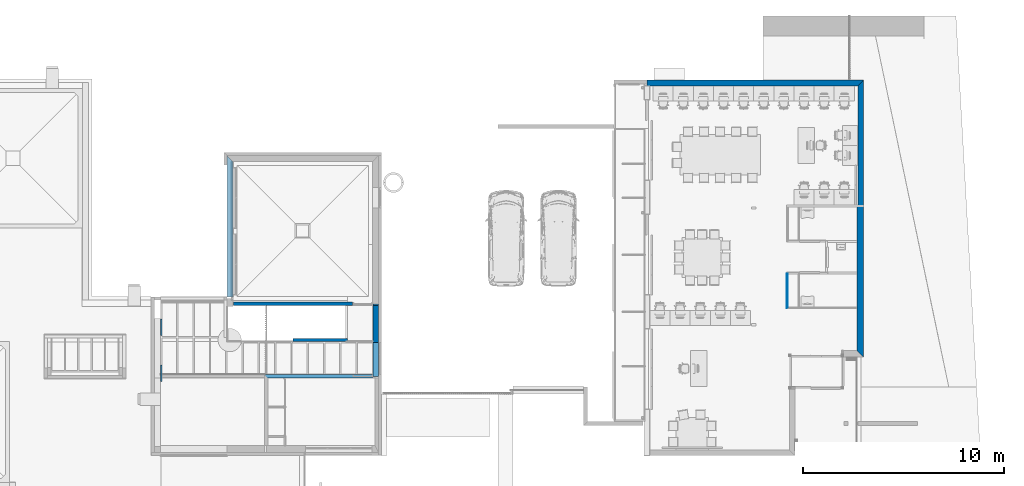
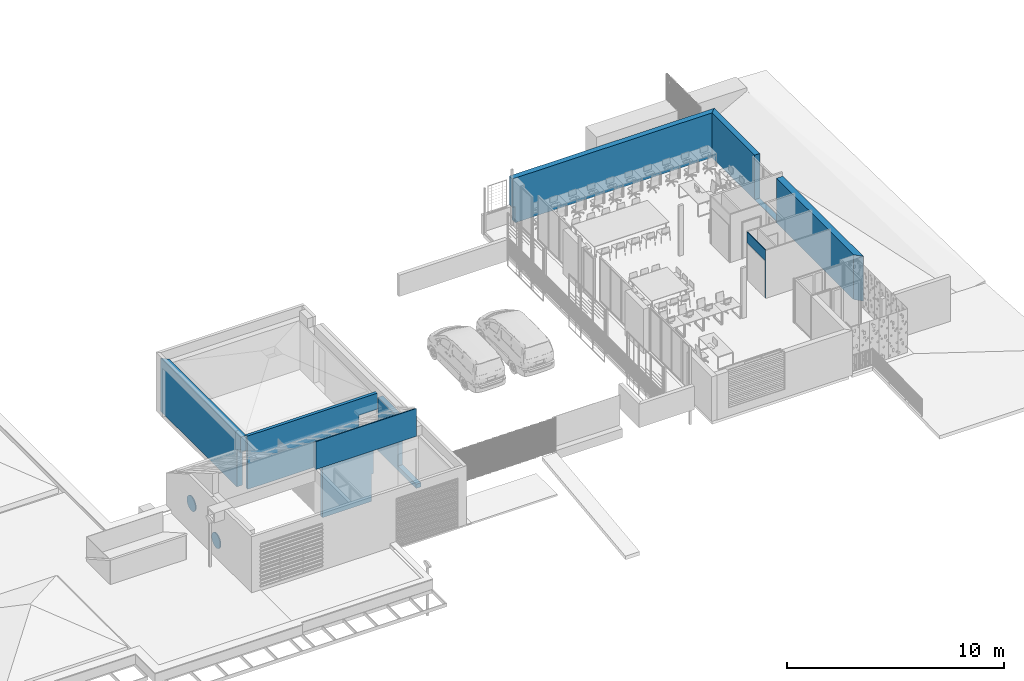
# One storey, part 20 of 51: 9 walls, 2 discrete accessories.
"""IFC2X3 building model written with IfcOpenShell, lengths in metres."""

import ifcopenshell
import ifcopenshell.guid

model = None  # the IFC model being written
_history = None  # IfcOwnerHistory: only IFC2X3 demands one
_inside = {}  # id of a spatial element -> (the spatial element, [elements in it])
_under = {}  # id of a project, library or spatial element -> (it, [spatial elements below it])
_declared = {}  # id of a project -> (the project, [libraries it declares])
_typed = {}  # id of a type object -> (the type object, [elements of that type])
_made_of = {}  # id of a material, layer set ... -> (it, [elements and type objects made of it])


def new_model(schema):
    """Start an empty IFC model of exactly this schema.

    Asked for "IFC4X3", IfcOpenShell would pick the latest addendum, in which some entities
    have other attributes; the version numbers below select the first issue.
    IFC2X3 requires an IfcOwnerHistory on every rooted entity: one is made here for all.
    """
    global model, _history
    if schema == "IFC4X3":
        model = ifcopenshell.file(schema_version=(4, 3, 0, 0))
    else:
        model = ifcopenshell.file(schema=schema)
    _inside.clear()
    _under.clear()
    _declared.clear()
    _typed.clear()
    _made_of.clear()
    _history = None
    if model.schema == "IFC2X3":
        org = make("IfcOrganization", Name="unknown")
        user = make(
            "IfcPersonAndOrganization",
            ThePerson=make("IfcPerson", FamilyName="unknown"),
            TheOrganization=org,
        )
        app = make(
            "IfcApplication",
            ApplicationDeveloper=org,
            Version="unknown",
            ApplicationFullName="unknown",
            ApplicationIdentifier="unknown",
        )
        _history = make(
            "IfcOwnerHistory",
            OwningUser=user,
            OwningApplication=app,
            ChangeAction="ADDED",
            CreationDate=0,
        )
    return model


def make(cls, **values):
    """One entity of the class cls with the attributes given. An attribute that is None is left unset."""
    return model.create_entity(
        cls, **{name: value for name, value in values.items() if value is not None}
    )


def entity(cls, *values):
    """Any entity or typed value of the class cls, its attributes in the order of the schema. None: left unset."""
    e = model.create_entity(cls)
    for i, value in enumerate(values):
        if value is not None:
            e[i] = value
    return e


def rooted(cls, **values):
    """An entity with a GlobalId (a new one), such as an element, a storey or a relation."""
    return make(cls, GlobalId=ifcopenshell.guid.new(), OwnerHistory=_history, **values)


def si_unit(unit_type, name, prefix=None):
    """IfcSIUnit, for example si_unit("LENGTHUNIT", "METRE", prefix="MILLI")."""
    return make("IfcSIUnit", UnitType=unit_type, Prefix=prefix, Name=name)


def converted_unit(unit_type, name, factor, base, dimensions=None, offset=None):
    """IfcConversionBasedUnit, such as the inch: factor (a typed value) times the base unit."""
    return make(
        "IfcConversionBasedUnit"
        if offset is None
        else "IfcConversionBasedUnitWithOffset",
        ConversionOffset=offset,
        Dimensions=None
        if dimensions is None
        else entity("IfcDimensionalExponents", *dimensions),
        UnitType=unit_type,
        Name=name,
        ConversionFactor=make(
            "IfcMeasureWithUnit", ValueComponent=factor, UnitComponent=base
        ),
    )


def derived_unit(unit_type, elements):
    """IfcDerivedUnit: a product of units, each with its exponent."""
    return make(
        "IfcDerivedUnit",
        Elements=[
            make("IfcDerivedUnitElement", Unit=unit, Exponent=power)
            for unit, power in elements
        ],
        UnitType=unit_type,
    )


def assignment(units):
    """IfcUnitAssignment: the units of a project."""
    return None if units is None else make("IfcUnitAssignment", Units=units)


def point(xyz):
    """IfcCartesianPoint."""
    return None if xyz is None else make("IfcCartesianPoint", Coordinates=xyz)


def direction(xyz):
    """IfcDirection."""
    return None if xyz is None else make("IfcDirection", DirectionRatios=xyz)


def frame(location, z_axis=None, x_axis=None):
    """IfcAxis2Placement3D, a coordinate frame: its origin and axes. An axis left out is left unset."""
    return make(
        "IfcAxis2Placement3D",
        Location=point(location),
        Axis=direction(z_axis),
        RefDirection=direction(x_axis),
    )


def origin():
    """The frame at (0, 0, 0) with its axes left unset."""
    return frame((0.0, 0.0, 0.0))


def place(relative_to, where):
    """IfcLocalPlacement: puts the frame where relative to a parent placement (None: the world)."""
    return make(
        "IfcLocalPlacement", PlacementRelTo=relative_to, RelativePlacement=where
    )


def context(
    kind, dimensions, precision=None, world=None, true_north=None, identifier=None
):
    """IfcGeometricRepresentationContext, for example the 3D "Model" context."""
    return make(
        "IfcGeometricRepresentationContext",
        ContextIdentifier=identifier,
        ContextType=kind,
        CoordinateSpaceDimension=dimensions,
        Precision=precision,
        WorldCoordinateSystem=world,
        TrueNorth=true_north,
    )


def subcontext(parent, identifier, kind, view, scale=None):
    """IfcGeometricRepresentationSubContext, for example "Body" below "Model"."""
    return make(
        "IfcGeometricRepresentationSubContext",
        ContextIdentifier=identifier,
        ContextType=kind,
        ParentContext=parent,
        TargetScale=scale,
        TargetView=view,
    )


def project(units=None, contexts=None):
    """IfcProject with its units and contexts."""
    return rooted(
        "IfcProject",
        Name="project",
        RepresentationContexts=contexts,
        UnitsInContext=assignment(units),
    )


def spatial(cls, under=None, at=None, **own):
    """A site, building, storey or space (cls), placed at a placement, below another one or the project."""
    s = rooted(cls, ObjectPlacement=at, **own)
    if under is not None:
        _under.setdefault(under.id(), (under, []))[1].append(s)
    return s


def polyline(points):
    """IfcPolyline through the points."""
    return make("IfcPolyline", Points=[point(p) for p in points])


def outline(outer, holes=None, kind="AREA"):
    """IfcArbitraryClosedProfileDef: a profile drawn as a closed curve; with holes, ...WithVoids."""
    if holes is None:
        return make("IfcArbitraryClosedProfileDef", ProfileType=kind, OuterCurve=outer)
    return make(
        "IfcArbitraryProfileDefWithVoids",
        ProfileType=kind,
        OuterCurve=outer,
        InnerCurves=holes,
    )


def extrude(swept, where, along, depth):
    """IfcExtrudedAreaSolid: the profile swept, set in the frame where, extruded along a direction by depth."""
    return make(
        "IfcExtrudedAreaSolid",
        SweptArea=swept,
        Position=where,
        ExtrudedDirection=direction(along),
        Depth=depth,
    )


def faces_of(points, faces, orient=None, outer=None):
    """IfcFace entities. A face is a list of loops; a loop is a list of indices into points, from 0.

    orient and outer hold one flag for each loop. By default every Orientation is true, the
    first loop of a face is its IfcFaceOuterBound and the others are IfcFaceBound.
    """
    made = []
    for i, loops in enumerate(faces):
        bounds = []
        for j, loop in enumerate(loops):
            is_outer = j == 0 if outer is None else outer[i][j]
            bounds.append(
                make(
                    "IfcFaceOuterBound" if is_outer else "IfcFaceBound",
                    Bound=make("IfcPolyLoop", Polygon=[points[k] for k in loop]),
                    Orientation=True if orient is None else orient[i][j],
                )
            )
        made.append(make("IfcFace", Bounds=bounds))
    return made


def faceted_brep(points, faces, orient=None, outer=None, voids=None):
    """IfcFacetedBrep: a solid bounded by flat faces; with voids (closed shells), ...WithVoids."""
    shared = [point(p) for p in points]
    hull = make("IfcClosedShell", CfsFaces=faces_of(shared, faces, orient, outer))
    if voids is None:
        return make("IfcFacetedBrep", Outer=hull)
    return make(
        "IfcFacetedBrepWithVoids",
        Outer=hull,
        Voids=[
            make(cls, CfsFaces=faces_of(shared, fs, o, b)) for cls, fs, o, b in voids
        ],
    )


def shape(context_of_items, identifier, shape_type, items):
    """IfcShapeRepresentation: the items that make up one representation, for example the "Body"."""
    return make(
        "IfcShapeRepresentation",
        ContextOfItems=context_of_items,
        RepresentationIdentifier=identifier,
        RepresentationType=shape_type,
        Items=items,
    )


def source(mapping_origin, context_of_items, identifier, shape_type, items):
    """IfcRepresentationMap: a shape defined once, which mapped items show again and again."""
    return make(
        "IfcRepresentationMap",
        MappingOrigin=mapping_origin,
        MappedRepresentation=shape(context_of_items, identifier, shape_type, items),
    )


def transform(
    local_origin,
    x_axis=None,
    y_axis=None,
    z_axis=None,
    scale=None,
    scale2=None,
    scale3=None,
    uniform=True,
):
    """IfcCartesianTransformationOperator3D, or its non-uniform kind. x_axis, y_axis, z_axis: its Axis1, 2, 3."""
    if uniform:
        return make(
            "IfcCartesianTransformationOperator3D",
            Axis1=direction(x_axis),
            Axis2=direction(y_axis),
            LocalOrigin=point(local_origin),
            Scale=scale,
            Axis3=direction(z_axis),
        )
    return make(
        "IfcCartesianTransformationOperator3DnonUniform",
        Axis1=direction(x_axis),
        Axis2=direction(y_axis),
        LocalOrigin=point(local_origin),
        Scale=scale,
        Axis3=direction(z_axis),
        Scale2=scale2,
        Scale3=scale3,
    )


def mapped(mapping_source, mapping_target):
    """IfcMappedItem: shows the shape of a source again, moved by a transform."""
    return make(
        "IfcMappedItem", MappingSource=mapping_source, MappingTarget=mapping_target
    )


def material(Name=None, Category=None):
    """IfcMaterial."""
    return make("IfcMaterial", Name=Name, Category=Category)


def layer(
    of_material, thickness, ventilated=None, Name=None, Category=None, Priority=None
):
    """IfcMaterialLayer: one layer of a wall or slab, of a material (None: an air gap)."""
    return make(
        "IfcMaterialLayer",
        Material=of_material,
        LayerThickness=thickness,
        IsVentilated=ventilated,
        Name=Name,
        Category=Category,
        Priority=Priority,
    )


def layer_set(layers, Name=None):
    """IfcMaterialLayerSet."""
    return make("IfcMaterialLayerSet", MaterialLayers=layers, LayerSetName=Name)


def made_of(thing, what):
    """Note that an element or type object is made of a material, layer set ...; save() writes the relation."""
    if what is not None:
        _made_of.setdefault(what.id(), (what, []))[1].append(thing)
    return thing


def type_object(cls, material=None, **own):
    """A type object (cls), such as IfcWallType, which elements share."""
    return made_of(rooted(cls, **own), material)


def type_shapes(of_type, sources):
    """Give a type object the sources (RepresentationMaps) that its elements show as mapped items."""
    of_type.RepresentationMaps = sources


def element(
    cls,
    number,
    at=None,
    inside=None,
    cuts=None,
    type_object=None,
    material=None,
    context=None,
    identifier="Body",
    shape_type=None,
    held_by="IfcProductDefinitionShape",
    body=None,
    shapes=None,
    **own,
):
    """One element of the class cls, such as IfcWall. Its Tag is "e" and its number.

    at: its placement. inside: the storey or other place that contains it. cuts: it is an
    opening in that element (IfcRelVoidsElement). A single representation is given by context,
    identifier, shape_type and body (its items); several are given by shapes. held_by: the class
    of the entity that holds the representations. save() writes the other relations.
    """
    e = rooted(cls, Tag="e%d" % number, ObjectPlacement=at, **own)
    if body is not None:
        shapes = [shape(context, identifier, shape_type, body)]
    if shapes is not None:
        e.Representation = make(held_by, Representations=shapes)
    if inside is not None:
        _inside.setdefault(inside.id(), (inside, []))[1].append(e)
    if cuts is not None:
        rooted(
            "IfcRelVoidsElement", RelatingBuildingElement=cuts, RelatedOpeningElement=e
        )
    if type_object is not None:
        _typed.setdefault(type_object.id(), (type_object, []))[1].append(e)
    return made_of(e, material)


def aggregate(whole, parts):
    """IfcRelAggregates: a whole, such as a stair, and the parts it consists of."""
    return rooted("IfcRelAggregates", RelatingObject=whole, RelatedObjects=parts)


def save(model, path):
    """Write the relations noted so far, then the file.

    IfcRelAggregates (storeys below a building ...), IfcRelContainedInSpatialStructure (elements
    in a storey), IfcRelDefinesByType, IfcRelAssociatesMaterial and IfcRelDeclares: one each for
    every whole, place, type object, material and project.
    """
    for whole, parts in _under.values():
        aggregate(whole, parts)
    for where, things in _inside.values():
        rooted(
            "IfcRelContainedInSpatialStructure",
            RelatedElements=things,
            RelatingStructure=where,
        )
    for kind, things in _typed.values():
        rooted("IfcRelDefinesByType", RelatedObjects=things, RelatingType=kind)
    for what, things in _made_of.values():
        rooted("IfcRelAssociatesMaterial", RelatedObjects=things, RelatingMaterial=what)
    for by, libraries in _declared.values():
        rooted("IfcRelDeclares", RelatingContext=by, RelatedDefinitions=libraries)
    model.write(path)


model = new_model("IFC2X3")

# Units and contexts
model_context = context("Model", 3, precision=1e-05, world=origin(), true_north=direction((6.123031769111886e-17, 1.0)))
body_context = subcontext(model_context, "Body", "Model", "MODEL_VIEW")
ifc_project = project(units=[si_unit("LENGTHUNIT", "METRE"), si_unit("AREAUNIT", "SQUARE_METRE"), si_unit("VOLUMEUNIT", "CUBIC_METRE"), converted_unit("PLANEANGLEUNIT", "DEGREE", entity("IfcRatioMeasure", 0.017453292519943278), si_unit("PLANEANGLEUNIT", "RADIAN"), dimensions=[0, 0, 0, 0, 0, 0, 0]), si_unit("MASSUNIT", "GRAM", prefix="KILO"), derived_unit("MASSDENSITYUNIT", [(si_unit("MASSUNIT", "GRAM", prefix="KILO"), 1), (si_unit("LENGTHUNIT", "METRE"), -3)]), derived_unit("MOMENTOFINERTIAUNIT", [(si_unit("LENGTHUNIT", "METRE"), 4)]), si_unit("TIMEUNIT", "SECOND"), si_unit("FREQUENCYUNIT", "HERTZ"), si_unit("THERMODYNAMICTEMPERATUREUNIT", "DEGREE_CELSIUS"), derived_unit("THERMALTRANSMITTANCEUNIT", [(si_unit("MASSUNIT", "GRAM", prefix="KILO"), 1), (si_unit("THERMODYNAMICTEMPERATUREUNIT", "KELVIN"), -1), (si_unit("TIMEUNIT", "SECOND"), -3)]), derived_unit("THERMALCONDUCTANCEUNIT", [(si_unit("MASSUNIT", "GRAM", prefix="KILO"), 1), (si_unit("LENGTHUNIT", "METRE"), 1), (si_unit("THERMODYNAMICTEMPERATUREUNIT", "KELVIN"), -1), (si_unit("TIMEUNIT", "SECOND"), -3)]), derived_unit("VOLUMETRICFLOWRATEUNIT", [(si_unit("LENGTHUNIT", "METRE"), 3), (si_unit("TIMEUNIT", "SECOND"), -1)]), derived_unit("MASSFLOWRATEUNIT", [(si_unit("MASSUNIT", "GRAM", prefix="KILO"), 1), (si_unit("TIMEUNIT", "SECOND"), -1)]), derived_unit("ROTATIONALFREQUENCYUNIT", [(si_unit("TIMEUNIT", "SECOND"), -1)]), si_unit("ELECTRICCURRENTUNIT", "AMPERE"), si_unit("ELECTRICVOLTAGEUNIT", "VOLT"), si_unit("POWERUNIT", "WATT"), si_unit("FORCEUNIT", "NEWTON", prefix="KILO"), si_unit("ILLUMINANCEUNIT", "LUX"), si_unit("LUMINOUSFLUXUNIT", "LUMEN"), si_unit("LUMINOUSINTENSITYUNIT", "CANDELA"), derived_unit("USERDEFINED", [(si_unit("MASSUNIT", "GRAM", prefix="KILO"), -1), (si_unit("LENGTHUNIT", "METRE"), -2), (si_unit("TIMEUNIT", "SECOND"), 3), (si_unit("LUMINOUSFLUXUNIT", "LUMEN"), 1)]), derived_unit("USERDEFINED", [(si_unit("MASSUNIT", "GRAM", prefix="KILO"), 1), (si_unit("LENGTHUNIT", "METRE"), 3), (si_unit("TIMEUNIT", "SECOND"), -3), (si_unit("ELECTRICCURRENTUNIT", "AMPERE"), -2)]), derived_unit("USERDEFINED", [(si_unit("LENGTHUNIT", "METRE"), 2), (si_unit("TIMEUNIT", "SECOND"), -2)]), derived_unit("SOUNDPOWERUNIT", [(si_unit("MASSUNIT", "GRAM", prefix="KILO"), 1), (si_unit("LENGTHUNIT", "METRE"), 2), (si_unit("TIMEUNIT", "SECOND"), -3)]), derived_unit("SOUNDPRESSUREUNIT", [(si_unit("MASSUNIT", "GRAM", prefix="KILO"), 1), (si_unit("LENGTHUNIT", "METRE"), -1), (si_unit("TIMEUNIT", "SECOND"), -2)]), derived_unit("LINEARVELOCITYUNIT", [(si_unit("LENGTHUNIT", "METRE"), 1), (si_unit("TIMEUNIT", "SECOND"), -1)]), si_unit("PRESSUREUNIT", "PASCAL"), derived_unit("USERDEFINED", [(si_unit("LENGTHUNIT", "METRE"), -2), (si_unit("MASSUNIT", "GRAM", prefix="KILO"), 1), (si_unit("TIMEUNIT", "SECOND"), -2)]), derived_unit("LINEARFORCEUNIT", [(si_unit("MASSUNIT", "GRAM", prefix="KILO"), 1), (si_unit("LENGTHUNIT", "METRE"), 1), (si_unit("TIMEUNIT", "SECOND"), -2), (si_unit("LENGTHUNIT", "METRE"), -1)]), derived_unit("PLANARFORCEUNIT", [(si_unit("MASSUNIT", "GRAM", prefix="KILO"), 1), (si_unit("LENGTHUNIT", "METRE"), 1), (si_unit("TIMEUNIT", "SECOND"), -2), (si_unit("LENGTHUNIT", "METRE"), -2)]), derived_unit("SPECIFICHEATCAPACITYUNIT", [(si_unit("LENGTHUNIT", "METRE"), 2), (si_unit("TIMEUNIT", "SECOND"), -2), (si_unit("THERMODYNAMICTEMPERATUREUNIT", "KELVIN"), -1)]), derived_unit("VAPORPERMEABILITYUNIT", [(si_unit("TIMEUNIT", "SECOND"), 1), (si_unit("LENGTHUNIT", "METRE"), -1)]), derived_unit("DYNAMICVISCOSITYUNIT", [(si_unit("MASSUNIT", "GRAM", prefix="KILO"), 1), (si_unit("LENGTHUNIT", "METRE"), -1), (si_unit("TIMEUNIT", "SECOND"), -1)]), derived_unit("THERMALEXPANSIONCOEFFICIENTUNIT", [(si_unit("THERMODYNAMICTEMPERATUREUNIT", "KELVIN"), -1)])], contexts=[model_context])

# Site, building, storey
site_placement = place(None, origin())
site = spatial("IfcSite", under=ifc_project, at=site_placement, Name="Default", CompositionType="ELEMENT")
building_placement = place(site_placement, origin())
building = spatial("IfcBuilding", under=site, at=building_placement, CompositionType="ELEMENT")
storey_placement = place(building_placement, frame((0.0, 0.0, 3.06)))
storey = spatial("IfcBuildingStorey", under=building, at=storey_placement, Name="ÉTAGE", CompositionType="ELEMENT", Elevation=3.06)

# Walls
wall_type_1 = type_object("IfcWallType", Name="MurExt-018", PredefinedType="NOTDEFINED")
wall_1_placement = place(storey_placement, frame((122.560752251, 11.4372094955, 2.759999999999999)))
element("IfcWall", 1, at=wall_1_placement, inside=storey, type_object=wall_type_1, Name="MurExt-018 804732:MurExt-018 804732", ObjectType="MurExt-018 804732:MurExt-018 804732", context=body_context, shape_type="Brep", body=[
    faceted_brep([(5.340000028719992, 0.0, 0.0), (0.0, 0.0, 0.0), (0.0, 0.16999999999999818, 0.0), (5.340000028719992, 0.16999999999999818, 0.0), (5.340000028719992, 0.0, 1.5693209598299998), (0.0, 0.0, 1.56932096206), (5.340000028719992, 0.16999999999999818, 1.4727099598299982), (0.0, 0.16999999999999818, 1.4727099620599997)], [[[0, 1, 2, 3]], [[1, 0, 4, 5]], [[0, 3, 6, 4]], [[3, 2, 7, 6]], [[2, 1, 5, 7]], [[5, 4, 6, 7]]]),
])
ifc_material_1 = material(Name="Appareillage - Pierre taillé")
ifc_layer_1 = layer(ifc_material_1, 0.29999999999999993)
ifc_layer_set_1 = layer_set([ifc_layer_1], Name="Mur de base:Struct. - Pierre 300")
wall_type_2 = type_object("IfcWallType", Name="Mur de base:Struct. - Pierre 300", PredefinedType="STANDARD", material=ifc_layer_set_1)
wall_2_placement = place(storey_placement, frame((120.830752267, 15.127209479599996, 0.0), z_axis=(0.0, 0.0, 1.0), x_axis=(0.0, 1.0, 0.0)))
element("IfcWallStandardCase", 2, at=wall_2_placement, inside=storey, type_object=wall_type_2, Name="MurExt-002", ObjectType="Mur de base:Struct. - Pierre 300", context=body_context, shape_type="Brep", body=[
    faceted_brep([(0.3400000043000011, -0.15000000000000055, 0.0), (7.060000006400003, -0.15000000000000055, 0.0), (7.060000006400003, -0.15000000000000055, 2.7600000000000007), (7.0700000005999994, -0.15000000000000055, 2.7600000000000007), (7.0700000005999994, -0.15000000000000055, 3.0), (0.0800000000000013, -0.15000000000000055, 3.0), (0.0, -0.15000000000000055, 3.0), (0.0, -0.15000000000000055, 2.139999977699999), (0.34000000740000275, -0.15000000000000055, 2.139999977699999), (0.3400000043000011, -0.15000000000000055, 0.5699999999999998), (0.3400000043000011, 0.15000000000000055, 0.0), (0.34000000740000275, 0.15000000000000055, 0.5699999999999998), (0.34000000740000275, 0.15000000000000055, 2.139999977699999), (0.0, 0.15000000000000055, 2.139999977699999), (0.0, 0.15000000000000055, 3.0), (7.3700000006, 0.15000000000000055, 3.0), (7.370000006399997, 0.15000000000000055, 2.7600000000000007), (7.3700000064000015, 0.15000000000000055, 0.0), (0.3400000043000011, 0.15000000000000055, 0.5699999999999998), (0.34000000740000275, -0.15000000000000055, 0.5699999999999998), (7.3700000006, 0.15000000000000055, 2.7600000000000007)], [[[0, 1, 2, 3, 4, 5, 6, 7, 8, 9]], [[10, 11, 12, 13, 14, 15, 16, 17]], [[1, 0, 10, 17]], [[6, 5, 4, 15, 14]], [[7, 13, 12, 8]], [[6, 14, 13, 7]], [[0, 9, 18, 10]], [[8, 12, 18, 19]], [[20, 3, 2]], [[2, 1, 17, 16]], [[4, 3, 20, 15]]]),
])
ifc_layer_2 = layer(ifc_material_1, 0.16)
ifc_layer_set_2 = layer_set([ifc_layer_2], Name="Mur de base:Struct. - Pierre 160")
wall_type_3 = type_object("IfcWallType", Name="Mur de base:Struct. - Pierre 160", PredefinedType="STANDARD", material=ifc_layer_set_2)
wall_3_placement = place(storey_placement, frame((123.95075227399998, 13.3272094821, -1.5300000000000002)))
element("IfcWallStandardCase", 3, at=wall_3_placement, inside=storey, type_object=wall_type_3, Name="MurExt-004", ObjectType="Mur de base:Struct. - Pierre 160", context=body_context, shape_type="Brep", body=[
    faceted_brep([(0.0, -0.0800000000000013, 0.0), (2.610000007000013, -0.0800000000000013, 0.0), (2.610000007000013, -0.0800000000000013, 1.5300000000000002), (2.720000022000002, -0.0800000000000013, 1.5300000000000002), (2.720000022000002, -0.0800000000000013, 4.27), (0.0, -0.0800000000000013, 4.27), (0.0, 0.07999999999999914, 0.0), (0.0, 0.07999999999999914, 4.27), (2.720000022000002, 0.07999999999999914, 4.27), (2.720000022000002, 0.07999999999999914, 2.430000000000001), (2.720000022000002, 0.07999999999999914, 1.5300000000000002), (2.6200000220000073, 0.07999999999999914, 1.5300000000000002), (2.610000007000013, 0.07999999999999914, 1.5300000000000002), (2.610000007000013, 0.07999999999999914, 0.0)], [[[0, 1, 2, 3, 4, 5]], [[6, 7, 8, 9, 10, 11, 12, 13]], [[1, 0, 6, 13]], [[5, 4, 8, 7]], [[0, 5, 7, 6]], [[10, 3, 2, 12, 11]], [[2, 1, 13, 12]], [[4, 3, 10, 9, 8]]]),
])
wall_4_placement = place(storey_placement, frame((127.91075227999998, 15.127209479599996, 0.0), z_axis=(0.0, 0.0, 1.0), x_axis=(-1.0, 0.0, 0.0)))
element("IfcWallStandardCase", 4, at=wall_4_placement, inside=storey, type_object=wall_type_3, Name="MurExt-004", ObjectType="Mur de base:Struct. - Pierre 160", context=body_context, shape_type="Brep", body=[
    faceted_brep([(6.930000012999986, -0.0800000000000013, 3.0), (0.0, -0.0800000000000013, 3.0), (0.0, -0.0800000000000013, 2.089999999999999), (0.9850000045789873, -0.0800000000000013, 2.089999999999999), (0.9850000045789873, -0.0800000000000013, 0.0), (6.900000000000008, -0.0800000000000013, 0.0), (6.900000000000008, -0.0800000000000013, 2.7600000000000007), (6.930000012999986, -0.0800000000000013, 2.7600000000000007), (0.0, 0.07999999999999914, 3.0), (6.930000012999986, 0.07999999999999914, 3.0), (6.930000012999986, 0.07999999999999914, 2.7600000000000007), (6.900000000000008, 0.07999999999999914, 2.7600000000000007), (6.900000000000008, 0.07999999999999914, 0.0), (1.3399999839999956, 0.07999999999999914, 0.0), (1.239999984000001, 0.07999999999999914, 0.0), (0.9850000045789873, 0.07999999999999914, 0.0), (0.9850000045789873, 0.07999999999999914, 2.089999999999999), (0.0, 0.07999999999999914, 2.089999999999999), (0.0, 0.07999999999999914, 2.7600000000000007), (6.930000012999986, 0.0, 3.0), (6.900000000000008, 0.0, 2.7600000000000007)], [[[0, 1, 2, 3, 4, 5, 6, 7]], [[8, 9, 10, 11, 12, 13, 14, 15, 16, 17, 18]], [[12, 5, 4, 15, 14, 13]], [[1, 0, 19, 9, 8]], [[16, 3, 2, 17]], [[3, 16, 15, 4]], [[1, 8, 18, 17, 2]], [[7, 6, 20, 11, 10]], [[5, 12, 11, 20, 6]], [[0, 7, 10, 9, 19]]]),
])
ifc_material_2 = material(Name="Métal - Fer")
ifc_layer_3 = layer(ifc_material_2, 0.037)
ifc_material_3 = material(Name="Air - Vide d'air")
ifc_layer_4 = layer(ifc_material_3, 0.035)
ifc_material_4 = material(Name="Isolation - Fibre de verre")
ifc_layer_5 = layer(ifc_material_4, 0.04)
ifc_layer_6 = layer(ifc_material_4, 0.145)
ifc_material_5 = material(Name="Bois - Panneaux de particules")
ifc_layer_7 = layer(ifc_material_5, 0.012)
ifc_layer_8 = layer(ifc_material_3, 0.048)
ifc_material_6 = material(Name="Plâtre - Plaques de plâtre")
ifc_layer_9 = layer(ifc_material_6, 0.013)
ifc_layer_set_3 = layer_set([ifc_layer_3, ifc_layer_4, ifc_layer_5, ifc_layer_6, ifc_layer_7, ifc_layer_8, ifc_layer_9], Name="Mur de base:ABA MOB ITE bardage 330")
wall_type_4 = type_object("IfcWallType", Name="Mur de base:ABA MOB ITE bardage 330", PredefinedType="STANDARD", material=ifc_layer_set_3)
wall_5_placement = place(storey_placement, frame((152.13575228, 19.9772094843, 1.189999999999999), z_axis=(0.0, 0.0, 1.0), x_axis=(0.0, -1.0, 0.0)))
element("IfcWallStandardCase", 5, at=wall_5_placement, inside=storey, type_object=wall_type_4, Name="MurExt-021", ObjectType="Mur de base:ABA MOB ITE bardage 330", context=body_context, shape_type="Brep", body=[
    faceted_brep([(0.0, -0.16499999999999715, 0.0), (7.1600000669, -0.16499999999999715, 0.0), (7.160000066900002, -0.16499999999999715, 2.5200000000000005), (0.050000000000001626, -0.16499999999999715, 2.5200000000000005), (0.050000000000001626, -0.16499999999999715, 0.020000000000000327), (0.0, -0.16499999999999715, 0.020000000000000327), (0.0, 0.16499999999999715, 0.0), (0.0, 0.16499999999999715, 0.020000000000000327), (0.050000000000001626, 0.16499999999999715, 0.020000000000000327), (0.050000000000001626, 0.16499999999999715, 2.5200000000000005), (7.4900000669, 0.16499999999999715, 2.5200000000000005), (7.4900000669, 0.16499999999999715, 0.0), (0.0, -0.11500000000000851, 0.0), (0.0, -0.11500000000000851, 0.020000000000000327)], [[[0, 1, 2, 3, 4, 5]], [[6, 7, 8, 9, 10, 11]], [[1, 0, 12, 6, 11]], [[3, 2, 10, 9]], [[0, 5, 13, 7, 6, 12]], [[4, 8, 7, 13, 5]], [[4, 3, 9, 8]], [[2, 1, 11, 10]]]),
])
ifc_layer_10 = layer(ifc_material_1, 0.25999999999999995)
ifc_layer_set_4 = layer_set([ifc_layer_10], Name="Mur de base:Struct. - Pierre 260")
wall_type_5 = type_object("IfcWallType", Name="Mur de base:Struct. - Pierre 260", PredefinedType="STANDARD", material=ifc_layer_set_4)
wall_6_placement = place(storey_placement, frame((128.07075228, 15.127209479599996, -0.24000000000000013), z_axis=(0.0, 0.0, 1.0), x_axis=(0.0, -1.0, 0.0)))
element("IfcWallStandardCase", 6, at=wall_6_placement, inside=storey, type_object=wall_type_5, Name="MurExt-002", ObjectType="Mur de base:Struct. - Pierre 260", context=body_context, shape_type="Brep", body=[
    faceted_brep([(0.0, -0.12999999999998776, 0.0), (3.6049999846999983, -0.12999999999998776, 0.0), (3.6049999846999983, -0.12999999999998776, 0.24000000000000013), (1.9199999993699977, -0.12999999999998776, 0.24000000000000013), (1.9199999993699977, -0.12999999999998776, 3.0), (0.07999999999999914, -0.12999999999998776, 3.0), (0.07999999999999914, -0.12999999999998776, 0.24000000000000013), (0.0, -0.12999999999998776, 0.24000000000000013), (3.6049999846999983, 0.1300000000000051, 0.0), (0.0, 0.1300000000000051, 0.0), (0.0, 0.1300000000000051, 0.24000000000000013), (0.07999999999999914, 0.1300000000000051, 0.24000000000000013), (0.07999999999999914, 0.1300000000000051, 3.0), (1.9199999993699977, 0.1300000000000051, 3.0), (1.9199999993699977, 0.1300000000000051, 0.24000000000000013), (3.5199999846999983, 0.1300000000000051, 0.24000000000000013), (3.6049999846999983, 0.1300000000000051, 0.24000000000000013), (3.6049999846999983, -0.039999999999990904, 0.0), (1.9199999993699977, 0.0025999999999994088, 3.0), (3.6049999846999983, -0.039999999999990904, 0.24000000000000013)], [[[0, 1, 2, 3, 4, 5, 6, 7]], [[8, 9, 10, 11, 12, 13, 14, 15, 16]], [[1, 0, 9, 8, 17]], [[12, 5, 4, 18, 13]], [[3, 14, 13, 18, 4]], [[1, 17, 8, 16, 19, 2]], [[2, 19, 16, 15, 14, 3]], [[9, 0, 7, 10]], [[11, 10, 7, 6]], [[6, 5, 12, 11]]]),
])
ifc_material_7 = material(Name="Enduit - Jaune nature")
ifc_layer_11 = layer(ifc_material_7, 0.022)
ifc_layer_12 = layer(ifc_material_4, 0.04)
ifc_layer_13 = layer(ifc_material_4, 0.145)
ifc_layer_14 = layer(ifc_material_5, 0.012)
ifc_layer_15 = layer(ifc_material_3, 0.048)
ifc_layer_16 = layer(ifc_material_6, 0.013)
ifc_layer_set_5 = layer_set([ifc_layer_11, ifc_layer_12, ifc_layer_13, ifc_layer_14, ifc_layer_15, ifc_layer_16], Name="Mur de base:ABA MOB ITE enduit 280")
wall_type_6 = type_object("IfcWallType", Name="Mur de base:ABA MOB ITE enduit 280", PredefinedType="STANDARD", material=ifc_layer_set_5)
wall_7_placement = place(storey_placement, frame((141.40075228, 26.097209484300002, 1.189999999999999)))
element("IfcWallStandardCase", 7, at=wall_7_placement, inside=storey, type_object=wall_type_6, Name="MurExt-022", ObjectType="Mur de base:ABA MOB ITE enduit 280", context=body_context, shape_type="Brep", body=[
    faceted_brep([(0.14000000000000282, -0.14000000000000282, 0.9200000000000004), (0.14000000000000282, -0.14000000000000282, 0.020000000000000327), (0.14000000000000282, -0.14000000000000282, 0.0), (10.619999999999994, -0.14000000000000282, 0.0), (10.619999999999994, -0.14000000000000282, 2.5200000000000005), (0.28000000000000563, -0.14000000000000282, 2.5200000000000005), (0.0, -0.14000000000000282, 2.5200000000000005), (0.0, -0.14000000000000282, 0.9200000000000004), (0.14000000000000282, 0.1399999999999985, 0.0), (0.14000000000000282, 0.1399999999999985, 0.9200000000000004), (0.0, 0.1399999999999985, 0.9200000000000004), (0.0, 0.1399999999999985, 2.5200000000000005), (10.9, 0.1399999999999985, 2.5200000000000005), (10.9, 0.1399999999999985, 0.0), (0.14000000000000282, 0.0779999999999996, 0.0), (0.14000000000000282, -0.059974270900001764, 0.9200000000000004), (0.0, -0.059974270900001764, 0.9200000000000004)], [[[0, 1, 2, 3, 4, 5, 6, 7]], [[8, 9, 10, 11, 12, 13]], [[3, 2, 14, 8, 13]], [[6, 5, 4, 12, 11]], [[4, 3, 13, 12]], [[0, 15, 9, 8, 14, 2, 1]], [[7, 16, 10, 9, 15, 0]], [[7, 6, 11, 10, 16]]]),
])
wall_8_placement = place(storey_placement, frame((152.16075228, 26.2372094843, 1.189999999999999), z_axis=(0.0, 0.0, 1.0), x_axis=(0.0, -1.0, 0.0)))
element("IfcWallStandardCase", 8, at=wall_8_placement, inside=storey, type_object=wall_type_6, Name="MurExt-021", ObjectType="Mur de base:ABA MOB ITE enduit 280", context=body_context, shape_type="Brep", body=[
    faceted_brep([(0.279999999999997, -0.14000000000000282, 0.0), (6.259999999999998, -0.14000000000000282, 0.0), (6.259999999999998, -0.14000000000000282, 0.020000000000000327), (4.21, -0.14000000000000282, 0.020000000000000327), (4.21, -0.14000000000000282, 2.5200000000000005), (0.279999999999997, -0.14000000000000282, 2.5200000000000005), (6.259999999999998, 0.14000000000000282, 0.0), (0.0, 0.14000000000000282, 0.0), (0.0, 0.14000000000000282, 2.5200000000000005), (4.21, 0.14000000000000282, 2.5200000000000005), (4.21, 0.14000000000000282, 0.020000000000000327), (6.21, 0.14000000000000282, 0.020000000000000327), (6.259999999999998, 0.14000000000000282, 0.020000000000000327), (4.21, -0.0027999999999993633, 2.5200000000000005)], [[[0, 1, 2, 3, 4, 5]], [[6, 7, 8, 9, 10, 11, 12]], [[1, 0, 7, 6]], [[8, 5, 4, 13, 9]], [[3, 10, 9, 13, 4]], [[0, 5, 8, 7]], [[1, 6, 12, 2]], [[2, 12, 11, 10, 3]]]),
])
ifc_layer_17 = layer(ifc_material_6, 0.013)
ifc_layer_18 = layer(ifc_material_4, 0.024)
ifc_layer_19 = layer(ifc_material_6, 0.013)
ifc_layer_set_6 = layer_set([ifc_layer_17, ifc_layer_18, ifc_layer_19], Name="Mur de base:ABA cloison 5cm 50")
wall_type_7 = type_object("IfcWallType", Name="Mur de base:ABA cloison 5cm 50", PredefinedType="STANDARD", material=ifc_layer_set_6)
wall_9_placement = place(storey_placement, frame((148.51575225, 14.897209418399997, 1.21), z_axis=(0.0, 0.0, 1.0), x_axis=(0.0, 1.0, 0.0)))
element("IfcWallStandardCase", 9, at=wall_9_placement, inside=storey, type_object=wall_type_7, Name="MurExt-012", ObjectType="Mur de base:ABA cloison 5cm 50", context=body_context, shape_type="Brep", body=[
    faceted_brep([(1.7200000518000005, -0.02500000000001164, 2.6999999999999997), (0.07000000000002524, -0.02500000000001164, 2.6999999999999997), (0.07000000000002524, -0.02500000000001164, 2.0899999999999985), (1.7200000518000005, -0.02500000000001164, 2.0899999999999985), (0.0, 0.02499999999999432, 2.6999999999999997), (1.7200000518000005, 0.02499999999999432, 2.6999999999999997), (1.7200000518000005, 0.02499999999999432, 2.0899999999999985), (0.0699999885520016, 0.02499999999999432, 2.0899999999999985), (0.0699999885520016, 0.02499999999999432, 0.0), (0.0, 0.02499999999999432, 0.0), (0.07000000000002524, -0.02500000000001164, 0.0), (0.06999998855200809, -0.024999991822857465, 2.0899999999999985), (0.0699999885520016, -0.02500000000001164, 0.0), (0.06999998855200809, -0.024999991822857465, 0.0)], [[[0, 1, 2, 3]], [[4, 5, 6, 7, 8, 9]], [[10, 9, 8]], [[1, 0, 5, 4]], [[7, 11, 12, 8]], [[2, 7, 6, 3]], [[1, 4, 9, 13, 2]], [[5, 0, 3, 6]]]),
])

# Discrete accessories
ifc_material_8 = material(Name="Peinture - Blanc titanium")
discrete_accessory_type_1 = type_object("IfcDiscreteAccessoryType", Name="Symb-0004", material=ifc_material_8)
shared_shape_1 = source(origin(), body_context, "Body", "SweptSolid", [
    extrude(outline(polyline([(-0.034862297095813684, -0.3984778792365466), (0.03486229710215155, -0.3984778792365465), (0.10352761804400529, -0.38637033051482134), (0.16904730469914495, -0.3625231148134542), (0.22943057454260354, -0.3276608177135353), (0.28284271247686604, -0.28284271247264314), (0.32766081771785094, -0.22943057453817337), (0.3625231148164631, -0.1690473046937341), (0.38637033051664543, -0.10352761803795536), (0.39847787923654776, -0.03486229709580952), (0.39847787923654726, 0.03486229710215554), (0.38637033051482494, 0.10352761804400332), (0.3625231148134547, 0.16904730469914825), (0.32766081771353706, 0.2294305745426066), (0.28284271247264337, 0.2828427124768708), (0.2294305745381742, 0.32766081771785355), (0.16904730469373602, 0.362523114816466), (0.10352761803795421, 0.3863703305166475), (0.0348622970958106, 0.3984778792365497), (-0.03486229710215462, 0.3984778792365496), (-0.10352761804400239, 0.3863703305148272), (-0.1690473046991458, 0.36252311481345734), (-0.22943057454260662, 0.3276608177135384), (-0.28284271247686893, 0.2828427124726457), (-0.3276608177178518, 0.2294305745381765), (-0.3625231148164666, 0.16904730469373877), (-0.3863703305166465, 0.10352761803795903), (-0.3984778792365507, 0.03486229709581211), (-0.3984778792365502, -0.03486229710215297), (-0.3863703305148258, -0.10352761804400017), (-0.3625231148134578, -0.16904730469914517), (-0.32766081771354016, -0.22943057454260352), (-0.28284271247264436, -0.28284271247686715), (-0.22943057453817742, -0.32766081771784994), (-0.16904730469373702, -0.36252311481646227), (-0.10352761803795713, -0.3863703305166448), (-0.034862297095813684, -0.3984778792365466)])), frame((117.38075228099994, 13.9572094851, 4.199999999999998), z_axis=(1.0, 0.0, 0.0), x_axis=(0.0, 0.965925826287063, -0.25881904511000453)), (0.0, 0.0, 1.0), 0.05000000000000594),
])
type_shapes(discrete_accessory_type_1, [shared_shape_1])
discrete_accessory_1_placement = place(storey_placement, frame((0.0, 0.0, -3.06)))
element("IfcDiscreteAccessory", 10, at=discrete_accessory_1_placement, inside=storey, type_object=discrete_accessory_type_1, material=ifc_material_8, Name="Symb-0004 240046:Symb-0004 240046", ObjectType="Symb-0004 240046:Symb-0004 240046", context=body_context, shape_type="MappedRepresentation", body=[
    mapped(shared_shape_1, transform((0.0, 0.0, 0.0), scale=1.0)),
])
discrete_accessory_type_2 = type_object("IfcDiscreteAccessoryType", Name="Symb-0006", material=ifc_material_8)
shared_shape_2 = source(origin(), body_context, "Body", "SweptSolid", [
    extrude(outline(polyline([(-0.034862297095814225, -0.3984778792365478), (0.034862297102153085, -0.3984778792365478), (0.1035276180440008, -0.38637033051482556), (0.16904730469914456, -0.3625231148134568), (0.2294305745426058, -0.32766081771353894), (0.2828427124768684, -0.28284271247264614), (0.3276608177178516, -0.2294305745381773), (0.3625231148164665, -0.16904730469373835), (0.3863703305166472, -0.10352761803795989), (0.3984778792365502, -0.03486229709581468), (0.39847787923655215, 0.03486229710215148), (0.38637033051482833, 0.10352761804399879), (0.36252311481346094, 0.16904730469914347), (0.32766081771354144, 0.2294305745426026), (0.2828427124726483, 0.28284271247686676), (0.22943057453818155, 0.32766081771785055), (0.1690473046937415, 0.3625231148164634), (0.10352761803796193, 0.386370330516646), (0.0348622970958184, 0.3984778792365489), (-0.034862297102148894, 0.3984778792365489), (-0.10352761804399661, 0.38637033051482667), (-0.16904730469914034, 0.36252311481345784), (-0.2294305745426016, 0.32766081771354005), (-0.2828427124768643, 0.2828427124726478), (-0.3276608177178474, 0.22943057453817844), (-0.3625231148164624, 0.16904730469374), (-0.386370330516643, 0.103527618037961), (-0.398477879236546, 0.0348622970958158), (-0.3984778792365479, -0.034862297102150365), (-0.3863703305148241, -0.10352761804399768), (-0.3625231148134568, -0.16904730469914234), (-0.3276608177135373, -0.22943057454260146), (-0.28284271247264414, -0.2828427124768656), (-0.22943057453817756, -0.3276608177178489), (-0.1690473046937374, -0.3625231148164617), (-0.10352761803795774, -0.38637033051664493), (-0.034862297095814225, -0.3984778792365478)])), frame((117.38075228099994, 11.682209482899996, 3.4999999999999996), z_axis=(1.0, 0.0, 0.0), x_axis=(0.0, 0.9659258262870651, -0.25881904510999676)), (0.0, 0.0, 1.0), 0.050000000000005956),
])
type_shapes(discrete_accessory_type_2, [shared_shape_2])
discrete_accessory_2_placement = place(storey_placement, frame((0.0, 0.0, -3.06)))
element("IfcDiscreteAccessory", 11, at=discrete_accessory_2_placement, inside=storey, type_object=discrete_accessory_type_2, material=ifc_material_8, Name="Symb-0006 240113:Symb-0006 240113", ObjectType="Symb-0006 240113:Symb-0006 240113", context=body_context, shape_type="MappedRepresentation", body=[
    mapped(shared_shape_2, transform((0.0, 0.0, 0.0), scale=1.0)),
])

save(model, "model.ifc")
